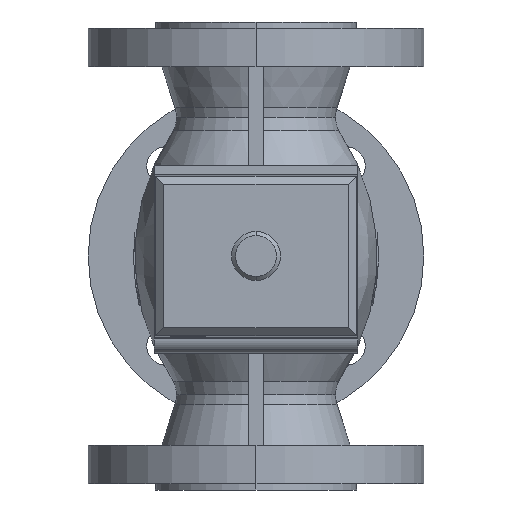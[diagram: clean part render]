
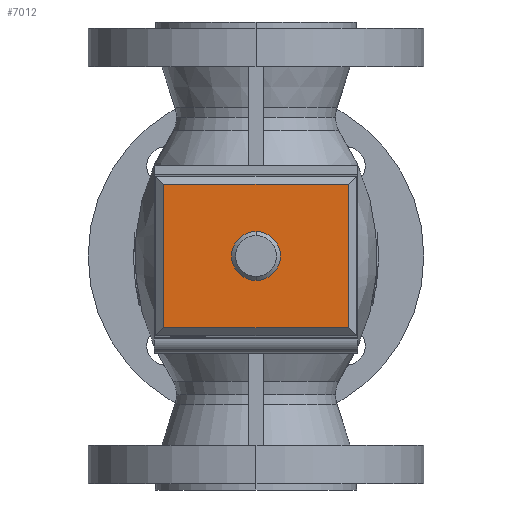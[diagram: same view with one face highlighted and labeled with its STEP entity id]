
A CAD part, front view. The second image highlights one B-rep face of the part: STEP entity #7012.
In plain terms, the highlighted planar face has unit normal (0, -1, 0).
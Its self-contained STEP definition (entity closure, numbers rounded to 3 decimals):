
#6837=CARTESIAN_POINT('',(45.222,-317.,150.222));
#6838=VERTEX_POINT('',#6837);
#6845=CARTESIAN_POINT('',(45.222,-317.,79.778));
#6846=VERTEX_POINT('',#6845);
#6847=CARTESIAN_POINT('',(45.222,-317.,150.222));
#6848=DIRECTION('',(0.0,0.0,-1.0));
#6849=VECTOR('',#6848,70.444);
#6850=LINE('',#6847,#6849);
#6851=EDGE_CURVE('',#6838,#6846,#6850,.T.);
#6876=CARTESIAN_POINT('',(-45.222,-317.,79.778));
#6877=VERTEX_POINT('',#6876);
#6878=CARTESIAN_POINT('',(45.222,-317.,79.778));
#6879=DIRECTION('',(-1.0,0.0,0.0));
#6880=VECTOR('',#6879,90.444);
#6881=LINE('',#6878,#6880);
#6882=EDGE_CURVE('',#6846,#6877,#6881,.T.);
#6906=CARTESIAN_POINT('',(-45.222,-317.,150.222));
#6907=VERTEX_POINT('',#6906);
#6914=CARTESIAN_POINT('',(-45.222,-317.,150.222));
#6915=DIRECTION('',(1.0,0.0,0.0));
#6916=VECTOR('',#6915,90.444);
#6917=LINE('',#6914,#6916);
#6918=EDGE_CURVE('',#6907,#6838,#6917,.T.);
#6936=CARTESIAN_POINT('',(-45.222,-317.,79.778));
#6937=DIRECTION('',(0.0,0.0,1.0));
#6938=VECTOR('',#6937,70.444);
#6939=LINE('',#6936,#6938);
#6940=EDGE_CURVE('',#6877,#6907,#6939,.T.);
#7001=CARTESIAN_POINT('',(0.,-317.,115.0));
#7002=DIRECTION('',(0.0,1.0,0.0));
#7003=DIRECTION('',(0.0,0.0,-1.0));
#7004=AXIS2_PLACEMENT_3D('',#7001,#7002,#7003);
#7005=PLANE('',#7004);
#7006=ORIENTED_EDGE('',*,*,#6851,.F.);
#7007=ORIENTED_EDGE('',*,*,#6918,.F.);
#7008=ORIENTED_EDGE('',*,*,#6940,.F.);
#7009=ORIENTED_EDGE('',*,*,#6882,.F.);
#7010=EDGE_LOOP('',(#7006,#7007,#7008,#7009));
#7011=FACE_OUTER_BOUND('',#7010,.T.);
#7012=ADVANCED_FACE('',(#7011),#7005,.F.);
